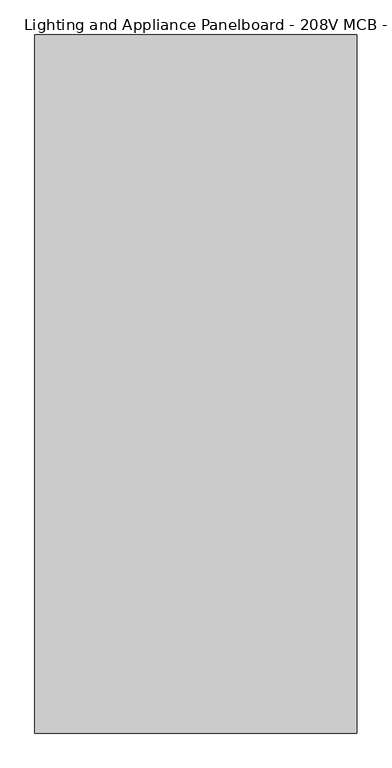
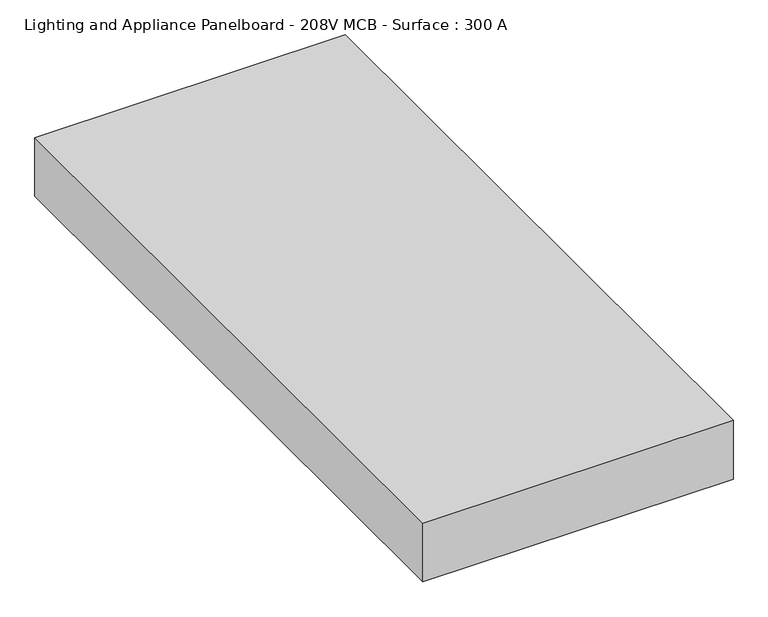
"""IFC4 building model written with IfcOpenShell, lengths in millimetres: proxy geometry, Lighting and Appliance Panelboard - 208V MCB - Surface : 300 A."""

from ifc_helpers import new_model, si_unit, origin, origin_with_axes, place, context, project, spatial, polyline, outline, extrude, source, transform, mapped, element, save


def lighting_and_appliance_panelboard_208v_mcb_surface_300_a_4e6e7a5c(model_context):
    return source(origin(), model_context, "Body", "SweptSolid", [
        extrude(outline(polyline([(476.2594706, 589.3943297), (476.2594706, -1061.6056703), (-285.7405294, -1061.6056703), (-285.7405294, 589.3943297), (476.2594706, 589.3943297)])), origin_with_axes(), (0.0, 0.0, 1.0), 152.4),
    ])


if __name__ == "__main__":
    model = new_model("IFC4")
    model_context = context("Model", 3, world=origin())
    ifc_project = project(units=[si_unit("LENGTHUNIT", "METRE", prefix="MILLI")], contexts=[model_context])
    site = spatial("IfcSite", under=ifc_project)
    building = spatial("IfcBuilding", under=site)
    placement = place(None, origin())
    lighting_and_appliance_panelboard_208v_mcb_surface_300_a_shape = lighting_and_appliance_panelboard_208v_mcb_surface_300_a_4e6e7a5c(model_context)
    element("IfcBuildingElementProxy", 1, Name="Lighting and Appliance Panelboard - 208V MCB - Surface : 300 A", ObjectType="Lighting and Appliance Panelboard - 208V MCB - Surface : 300 A", at=placement, inside=building, context=model_context, shape_type="MappedRepresentation", body=[
        mapped(lighting_and_appliance_panelboard_208v_mcb_surface_300_a_shape, transform((0.0, 0.0, 0.0), x_axis=(1.0, 0.0, 0.0), y_axis=(0.0, 1.0, 0.0), z_axis=(0.0, 0.0, 1.0))),
    ])
    save(model, "model.ifc")
